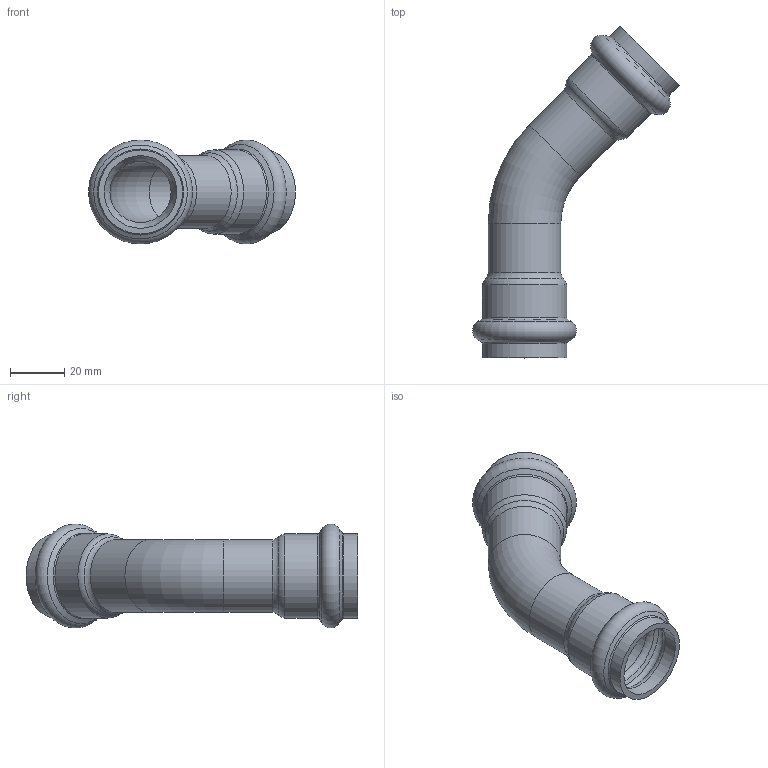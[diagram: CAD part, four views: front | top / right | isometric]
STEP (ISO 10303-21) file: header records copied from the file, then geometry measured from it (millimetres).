
FILE_DESCRIPTION(/* description */ ('VIC 45 DEG ELBOW STYLE P591 (P X P)','CAx-IF Rec.Pracs.---Representation and Presentation of Product Manufacturing Information (PMI)---4.0---2014-10-13'),/* implementation_level */ '2;1');
FILE_NAME(/* name */ 'C:\Users\Vjadhav\AppData\Roaming\Autodesk\ApplicationPlugins\Back Up\Victaulic_SS-Vic-Press-TP 304_Elbow 45 Deg_Style P591 (VP)\Victaulic_SS-Vic-Press-TP 304_Elbow 45 Deg_Style P591 (VP)_0.75 (20).stp',/* time_stamp */ '2020-08-12T16:12:52+06:00',/* author */ ('cgray'),/* organization */ ('Victaulic'),/* preprocessor_version */ 'ST-DEVELOPER v17.2',/* originating_system */ 'Autodesk Inventor 2019',/* authorisation */ '');
FILE_SCHEMA (('AP242_MANAGED_MODEL_BASED_3D_ENGINEERING_MIM_LF { 1 0 10303 442 1 1 4 }'));
Length unit declared in the file: inch
Products named in the file (1): P591-0.75
Bounding box: 75.97 x 121.92 x 38.15 mm (x, y, z)
Volume: 24345.5 mm3; surface area: 23647 mm2
Topology: 1 solids, 1 shells, 42 faces, 150 edges, 110 vertices
Faces by surface type: torus 18, cylinder 12, cone 10, plane 2
Full cylindrical faces by diameter (mm): 22.454 x2, 26.67 x6, 30.886 x4
Entity records: 1920 total; most frequent: DIRECTION 390, CARTESIAN_POINT 320, ORIENTED_EDGE 300, AXIS2_PLACEMENT_3D 184, EDGE_CURVE 150, CIRCLE 128, VERTEX_POINT 110, EDGE_LOOP 44
